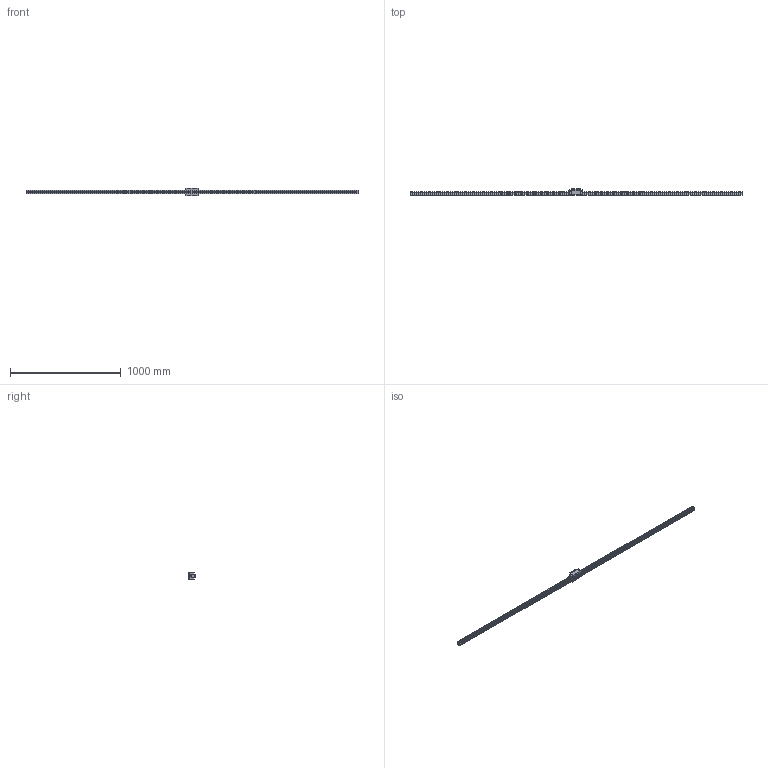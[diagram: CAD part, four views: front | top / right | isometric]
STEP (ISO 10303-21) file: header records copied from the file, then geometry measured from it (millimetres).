
FILE_DESCRIPTION(/* description */ ('STEP AP214'),/* implementation_level */ '2;1');
FILE_NAME(/* name */ 'HDR35R1SS-3000L_G20_0_B-M6F_1441-75_0_0_01',/* time_stamp */ '2023-06-30T12:30:12+02:00',/* author */ ('License CC BY-ND 4.0'),/* organization */ ('CADENAS'),/* preprocessor_version */ 'ST-DEVELOPER v19.3',/* originating_system */ 'PARTsolutions',/* authorisation */ ' ');
FILE_SCHEMA (('AUTOMOTIVE_DESIGN {1 0 10303 214 3 1 1}'));
Length unit declared in the file: millimetre
Products named in the file (4): HDR35R1SS-3000L_G20_0_B-M6F_1441-75_0_0_01; hsr_ftht_B-M6F_grease_nipple_joint; HDR35RSSB-M6F1 Slider; HDR35R1300020 Rail
Assembly tree (3 placements, depth 2):
  HDR35R1SS-3000L_G20_0_B-M6F_1441-75_0_0_01
    hsr_ftht_B-M6F_grease_nipple_joint
    HDR35RSSB-M6F1 Slider
    HDR35R1300020 Rail
Bounding box: 3000 x 55 x 70 mm (x, y, z)
Volume: 2783581.7 mm3; surface area: 490238.5 mm2
Topology: 3 solids, 3 shells, 442 faces, 1138 edges, 709 vertices
Faces by surface type: plane 268, cylinder 144, cone 25, sphere 3, torus 2
Full cylindrical faces by diameter (mm): 4.917 x2, 5.2 x4, 6 x1, 6.647 x6, 8 x1, 9 x38, 10 x2, 14 x38
Entity records: 13087 total; most frequent: DIRECTION 2382, CARTESIAN_POINT 2257, ORIENTED_EDGE 2016, EDGE_CURVE 1008, AXIS2_PLACEMENT_3D 952, VERTEX_POINT 703, FACE_BOUND 649, EDGE_LOOP 641
